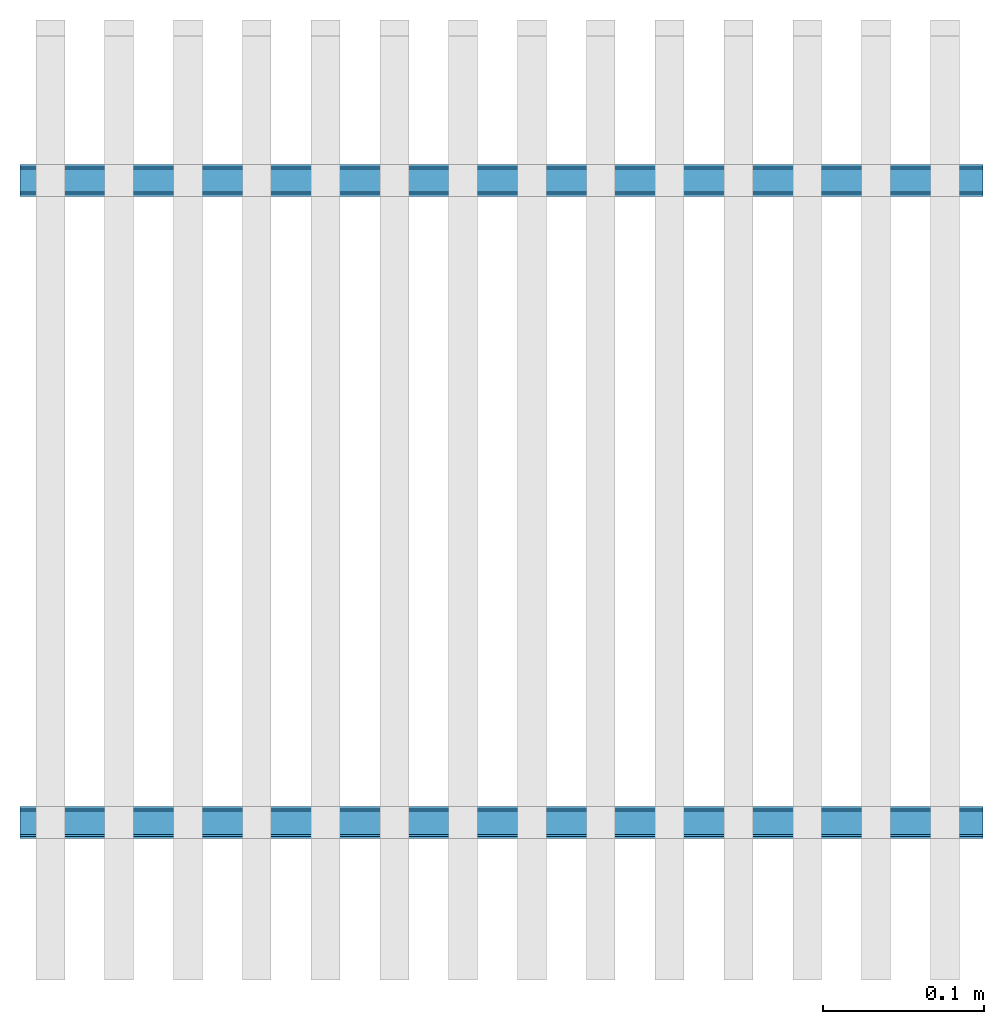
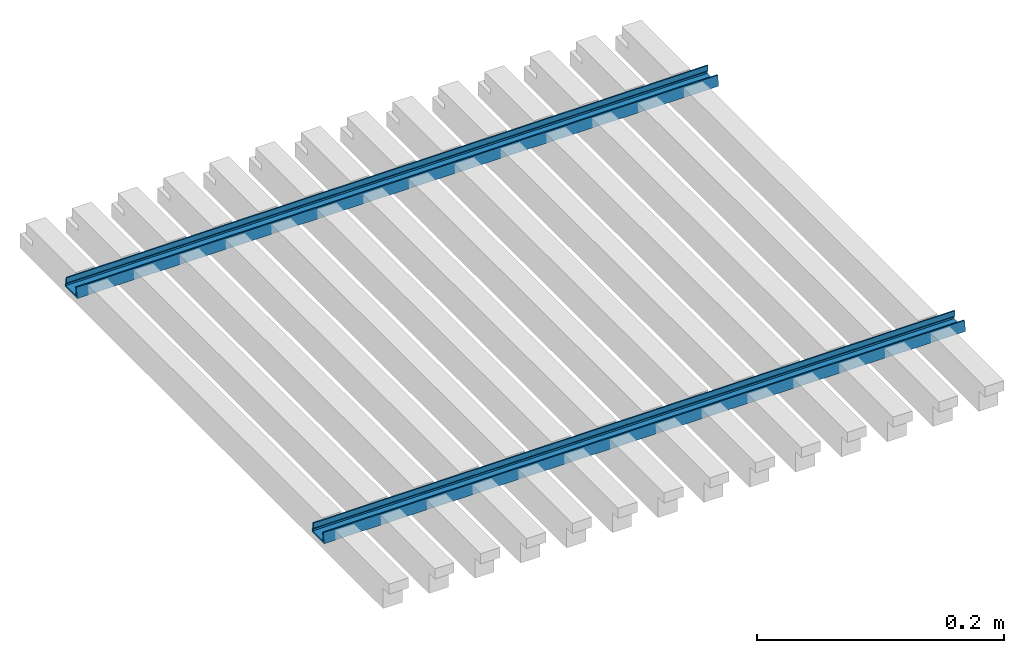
# One storey, part 1 of 2: 2 beams.
"""IFC2X3 building model written with IfcOpenShell, lengths in millimetres."""

from ifc_helpers import new_model, entity, si_unit, converted_unit, money_unit, direction, frame, origin_with_axes, place, context, subcontext, project, spatial, polyline, outline, extrude, material, type_object, element, save


model = new_model("IFC2X3")

# Units and contexts
model_context = context("Model", 3, precision=1e-05, world=origin_with_axes(), true_north=direction((0.0, 1.0)))
body_context = subcontext(model_context, "Body", "Model", "MODEL_VIEW")
ifc_project = project(units=[si_unit("LENGTHUNIT", "METRE", prefix="MILLI"), si_unit("AREAUNIT", "SQUARE_METRE"), si_unit("VOLUMEUNIT", "CUBIC_METRE"), converted_unit("PLANEANGLEUNIT", "DEGREE", entity("IfcPlaneAngleMeasure", 0.0174532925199), si_unit("PLANEANGLEUNIT", "RADIAN"), dimensions=[0, 0, 0, 0, 0, 0, 0]), si_unit("SOLIDANGLEUNIT", "STERADIAN"), money_unit("AUD"), si_unit("TIMEUNIT", "SECOND"), si_unit("MASSUNIT", "GRAM"), si_unit("THERMODYNAMICTEMPERATUREUNIT", "DEGREE_CELSIUS"), si_unit("LUMINOUSINTENSITYUNIT", "LUMEN")], contexts=[model_context])

# Site, building, storey
site_placement = place(None, origin_with_axes())
site = spatial("IfcSite", under=ifc_project, at=site_placement, Name="Site", CompositionType="ELEMENT")
building_placement = place(site_placement, origin_with_axes())
building = spatial("IfcBuilding", under=site, at=building_placement, Name="Building", CompositionType="ELEMENT")
storey_placement = place(building_placement, origin_with_axes())
storey = spatial("IfcBuildingStorey", under=building, at=storey_placement, Name="GROUND", CompositionType="ELEMENT", Elevation=0.0)

# Beams
ifc_material = material(Name="Brick - Internal Wall")
beam_type = type_object("IfcBeamType", Name="15MM GRID 20 x 10", PredefinedType="NOTDEFINED")
for number, where, z_axis, x_axis, name in (
    (1, (2.5, 502.0, 20.0), (0.0, 0.0, 1.0), (0.0, -1.0, 0.0), "BEAM-02"),
    (2, (2.5, 102.0, 20.0), (0.0, 0.0, 1.0), (0.0, -1.0, 0.0), "BEAM-02"),
):
    element("IfcBeam", number, at=place(storey_placement, frame(where, z_axis=z_axis, x_axis=x_axis)), inside=storey, type_object=beam_type, material=ifc_material, Name=name, ObjectType="15MM GRID 20 x 10", context=body_context, shape_type="SweptSolid", body=[
        extrude(outline(polyline([(10.0, 0.0), (8.5, 10.0), (7.26018347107, 10.0), (8.06268347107, 4.65), (7.26018347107, 3.5), (8.53518347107, 1.5), (-8.53518347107, 1.5), (-8.23518347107, 3.5), (-7.56832504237, 4.65), (-7.26018347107, 10.0), (-8.5, 10.0), (-10.0, 0.0), (10.0, 0.0)])), frame((0.0, 600.0, 0.0), z_axis=(0.0, -1.0, 0.0), x_axis=(1.0, 0.0, 0.0)), (0.0, 0.0, 1.0), 600.0),
    ])

save(model, "model.ifc")
